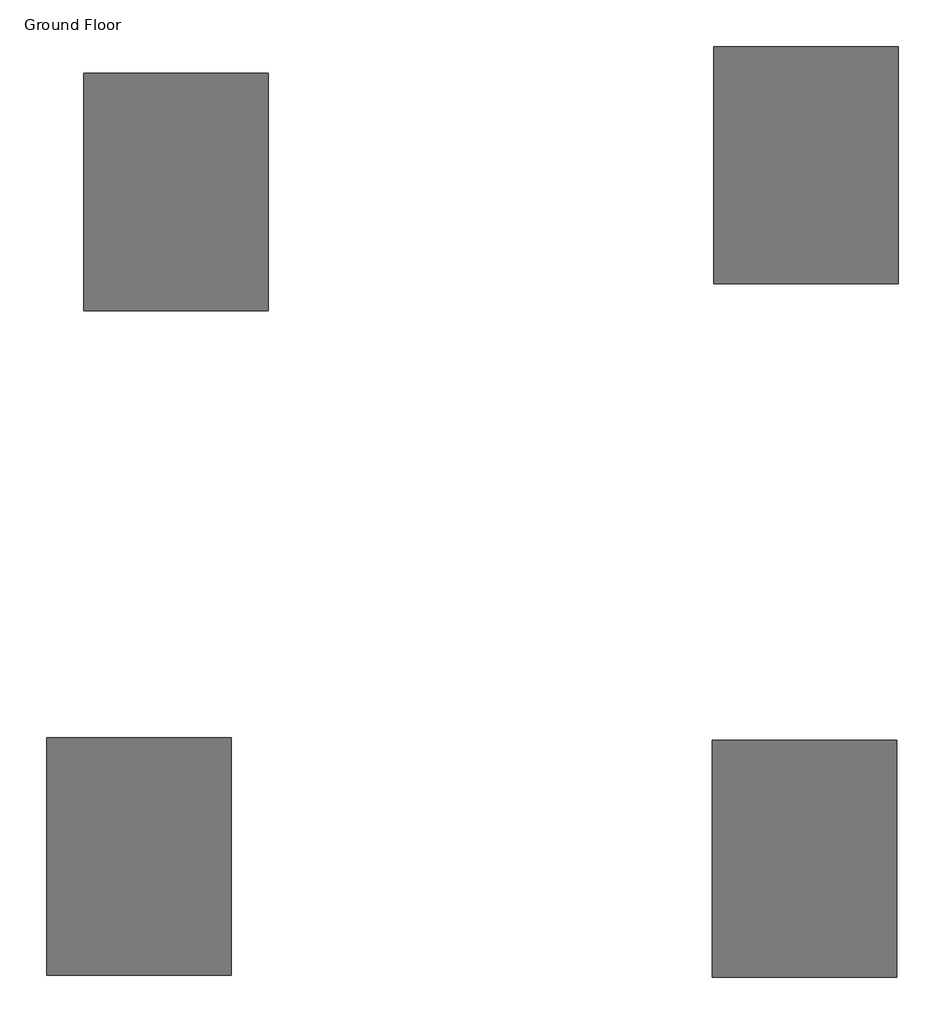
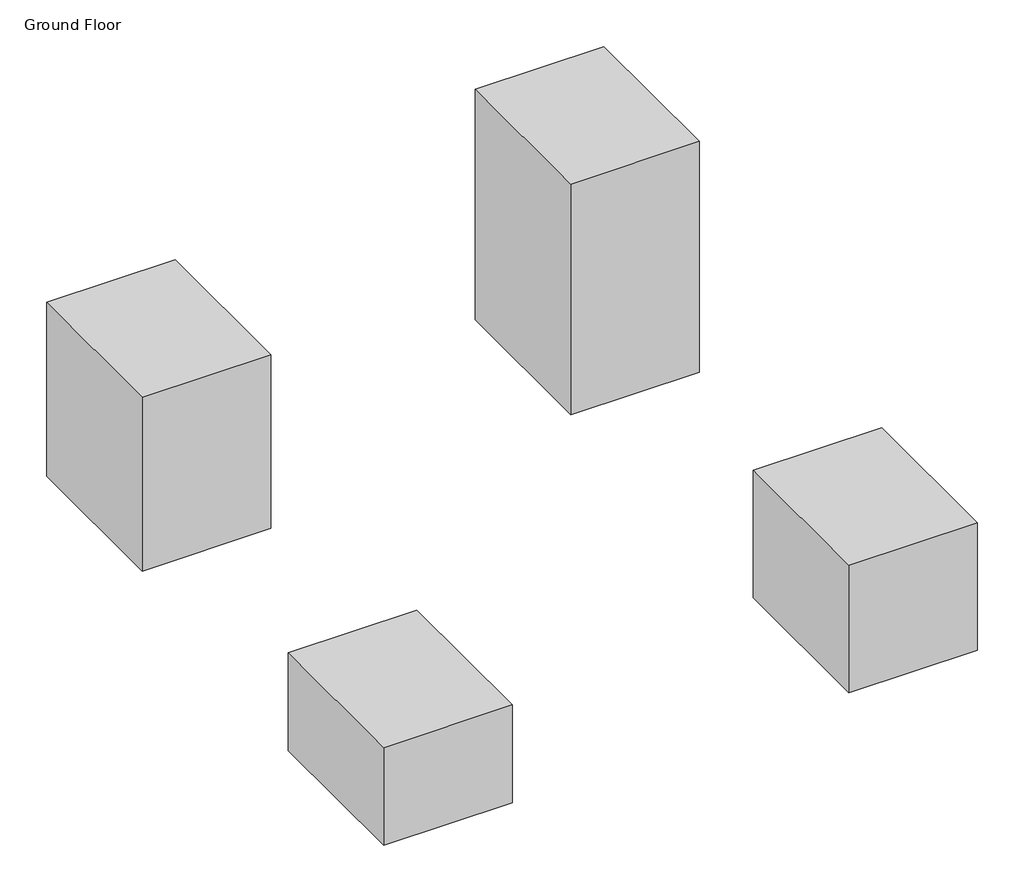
# One storey, incomplete: 4 proxies.
"""IFC4 building model written with IfcOpenShell, lengths in millimetres."""

from ifc_helpers import new_model, si_unit, origin, place, context, project, spatial, transform, mapped, element, save
from components import generic_models_1_generic_models_1_4ab83a45, generic_models_2_generic_models_1_18057a31, generic_models_3_generic_models_1_9fa9e00d, generic_models_4_generic_models_1_284cbda2

model = new_model("IFC4")

# Units and contexts
model_context = context("Model", 3, world=origin())
ifc_project = project(units=[si_unit("LENGTHUNIT", "METRE", prefix="MILLI")], contexts=[model_context])

# Site, building, storey
site = spatial("IfcSite", under=ifc_project)
building = spatial("IfcBuilding", under=site)
storey = spatial("IfcBuildingStorey", under=building, Name="Ground Floor", Elevation=0.0)

# Proxies
placement = place(None, origin())
generic_models_1_generic_models_1_shape = generic_models_1_generic_models_1_4ab83a45(model_context)
element("IfcBuildingElementProxy", 1, Name="Generic Models 1 : Generic Models 1", ObjectType="Generic Models 1 : Generic Models 1", at=placement, inside=storey, context=model_context, shape_type="MappedRepresentation", body=[
    mapped(generic_models_1_generic_models_1_shape, transform((0.0, 0.0, 0.0), x_axis=(1.0, 0.0, 0.0), y_axis=(0.0, 1.0, 0.0), z_axis=(0.0, 0.0, 1.0))),
])
generic_models_2_generic_models_1_shape = generic_models_2_generic_models_1_18057a31(model_context)
element("IfcBuildingElementProxy", 2, Name="Generic Models 2 : Generic Models 1", ObjectType="Generic Models 2 : Generic Models 1", at=placement, inside=storey, context=model_context, shape_type="MappedRepresentation", body=[
    mapped(generic_models_2_generic_models_1_shape, transform((0.0, 0.0, 0.0), x_axis=(1.0, 0.0, 0.0), y_axis=(0.0, 1.0, 0.0), z_axis=(0.0, 0.0, 1.0))),
])
generic_models_3_generic_models_1_shape = generic_models_3_generic_models_1_9fa9e00d(model_context)
element("IfcBuildingElementProxy", 3, Name="Generic Models 3 : Generic Models 1", ObjectType="Generic Models 3 : Generic Models 1", at=placement, inside=storey, context=model_context, shape_type="MappedRepresentation", body=[
    mapped(generic_models_3_generic_models_1_shape, transform((0.0, 0.0, 0.0), x_axis=(1.0, 0.0, 0.0), y_axis=(0.0, 1.0, 0.0), z_axis=(0.0, 0.0, 1.0))),
])
generic_models_4_generic_models_1_shape = generic_models_4_generic_models_1_284cbda2(model_context)
element("IfcBuildingElementProxy", 4, Name="Generic Models 4 : Generic Models 1", ObjectType="Generic Models 4 : Generic Models 1", at=placement, inside=storey, context=model_context, shape_type="MappedRepresentation", body=[
    mapped(generic_models_4_generic_models_1_shape, transform((0.0, 0.0, 0.0), x_axis=(1.0, 0.0, 0.0), y_axis=(0.0, 1.0, 0.0), z_axis=(0.0, 0.0, 1.0))),
])

save(model, "model.ifc")
